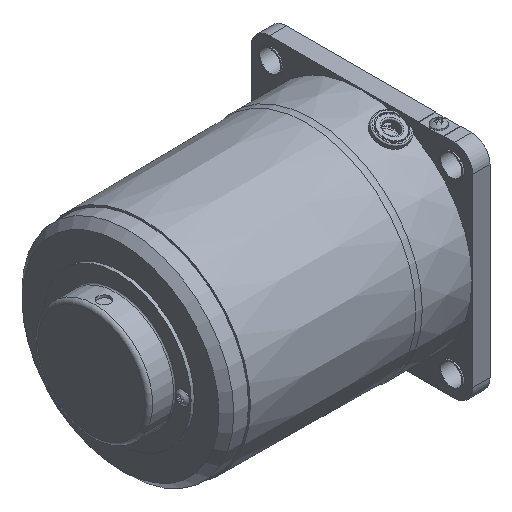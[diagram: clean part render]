
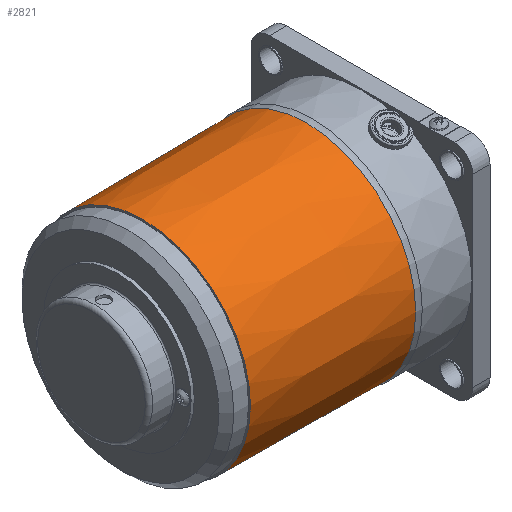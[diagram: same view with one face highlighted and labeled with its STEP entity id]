
A CAD part, isometric view. The second image highlights one B-rep face of the part: STEP entity #2821.
In plain terms, the highlighted conical face has half-angle 0.48 degrees and reference radius 44.029 mm.
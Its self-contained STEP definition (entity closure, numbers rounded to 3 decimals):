
#14=CONICAL_SURFACE('',#3039,44.029,0.008);
#286=CIRCLE('',#3037,44.308);
#287=CIRCLE('',#3038,44.308);
#288=CIRCLE('',#3040,43.75);
#477=FACE_OUTER_BOUND('',#646,.T.);
#646=EDGE_LOOP('',(#2083,#2084,#2085,#2086,#2087));
#848=LINE('',#4399,#1065);
#1065=VECTOR('',#3458,44.029);
#1293=VERTEX_POINT('',#4392);
#1294=VERTEX_POINT('',#4394);
#1295=VERTEX_POINT('',#4398);
#1589=EDGE_CURVE('',#1293,#1294,#286,.T.);
#1590=EDGE_CURVE('',#1294,#1293,#287,.T.);
#1591=EDGE_CURVE('',#1294,#1295,#848,.T.);
#1592=EDGE_CURVE('',#1295,#1295,#288,.T.);
#2083=ORIENTED_EDGE('',*,*,#1590,.F.);
#2084=ORIENTED_EDGE('',*,*,#1591,.T.);
#2085=ORIENTED_EDGE('',*,*,#1592,.T.);
#2086=ORIENTED_EDGE('',*,*,#1591,.F.);
#2087=ORIENTED_EDGE('',*,*,#1589,.F.);
#2821=ADVANCED_FACE('',(#477),#14,.T.);
#3037=AXIS2_PLACEMENT_3D('',#4395,#3452,#3453);
#3038=AXIS2_PLACEMENT_3D('',#4396,#3454,#3455);
#3039=AXIS2_PLACEMENT_3D('',#4397,#3456,#3457);
#3040=AXIS2_PLACEMENT_3D('',#4400,#3459,#3460);
#3452=DIRECTION('center_axis',(1.,0.,0.));
#3453=DIRECTION('ref_axis',(0.,1.,0.));
#3454=DIRECTION('center_axis',(1.,0.,0.));
#3455=DIRECTION('ref_axis',(0.,1.,0.));
#3456=DIRECTION('center_axis',(1.,0.,0.));
#3457=DIRECTION('ref_axis',(0.,1.,0.));
#3458=DIRECTION('',(-1.,0.008,0.));
#3459=DIRECTION('center_axis',(1.,0.,0.));
#3460=DIRECTION('ref_axis',(0.,1.,0.));
#4392=CARTESIAN_POINT('',(75.559,0.,44.308));
#4394=CARTESIAN_POINT('',(75.559,-44.308,0.));
#4395=CARTESIAN_POINT('Origin',(75.559,0.,0.));
#4396=CARTESIAN_POINT('Origin',(75.559,0.,0.));
#4397=CARTESIAN_POINT('Origin',(42.279,0.,0.));
#4398=CARTESIAN_POINT('',(9.,-43.75,0.));
#4399=CARTESIAN_POINT('',(42.279,-44.029,0.));
#4400=CARTESIAN_POINT('Origin',(9.,0.,0.));
